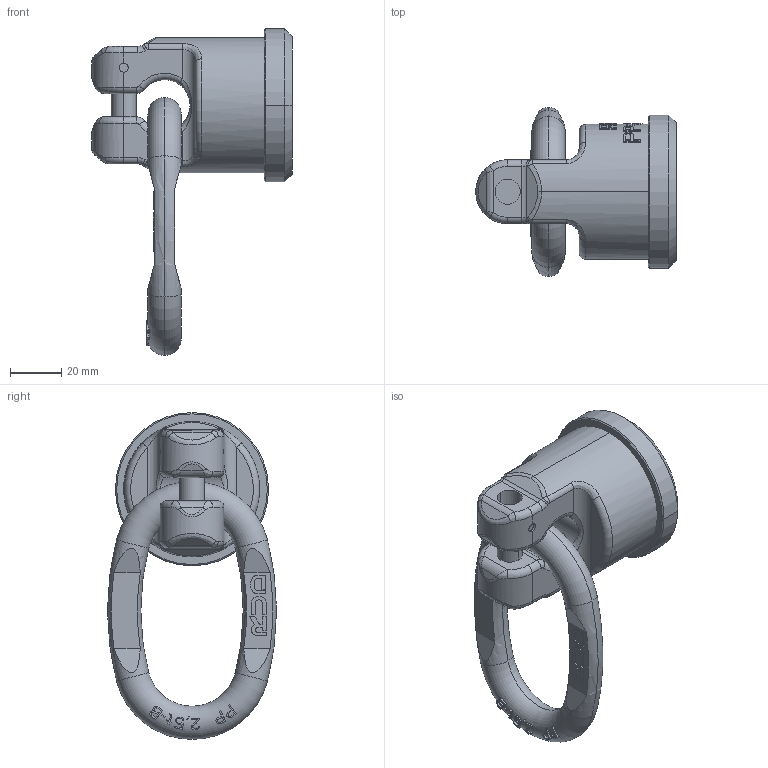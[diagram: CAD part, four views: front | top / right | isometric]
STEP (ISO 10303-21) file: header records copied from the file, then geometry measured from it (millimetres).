
FILE_DESCRIPTION((''),'2;1');
FILE_NAME('001-M31347-P-40_ASM','2018-04-27T',('Anja.Joas'),(''),'PRO/ENGINEER BY PARAMETRIC TECHNOLOGY CORPORATION, 2011490','PRO/ENGINEER BY PARAMETRIC TECHNOLOGY CORPORATION, 2011490','');
FILE_SCHEMA(('CONFIG_CONTROL_DESIGN'));
Length unit declared in the file: millimetre
Products named in the file (4): 001-M31347-P-20; 001-M31347-P-50; 001-M31290-002; 001-M31347-P-40_ASM
Assembly tree (3 placements, depth 2):
  001-M31347-P-40_ASM
    001-M31347-P-20
    001-M31347-P-50
    001-M31290-002
Bounding box: 78.5 x 66.08 x 128 mm (x, y, z)
Volume: 156407.8 mm3; surface area: 32470.9 mm2
Topology: 3 solids, 3 shells, 609 faces, 1629 edges, 1060 vertices
Faces by surface type: plane 478, cylinder 64, bspline 30, torus 30, cone 6, extrusion 1
Entity records: 20771 total; most frequent: CARTESIAN_POINT 6358, ORIENTED_EDGE 3258, DIRECTION 2556, EDGE_CURVE 1629, VERTEX_POINT 1060, AXIS2_PLACEMENT_3D 854, VECTOR 848, LINE 847
